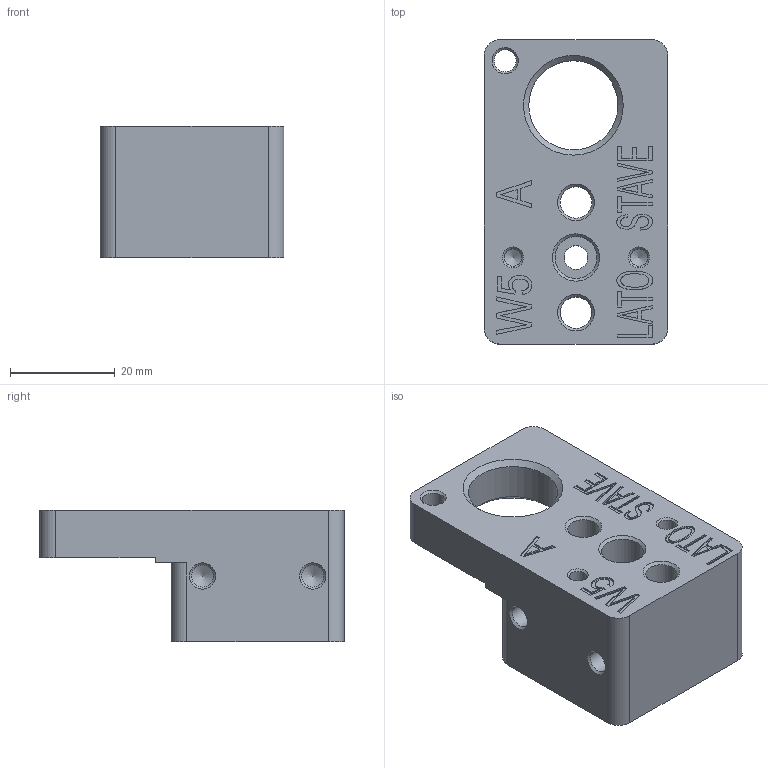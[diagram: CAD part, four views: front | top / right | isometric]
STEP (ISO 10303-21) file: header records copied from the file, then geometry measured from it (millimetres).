
FILE_DESCRIPTION(/* description */ (''),/* implementation_level */ '2;1');
FILE_NAME(/* name */ 'WHEELS-INSERT.10.stp',/* time_stamp */ '2018-10-12T17:07:46+02:00',/* author */ (''),/* organization */ (''),/* preprocessor_version */ 'ST-DEVELOPER v16.7',/* originating_system */ 'SIEMENS PLM Software NX 12.0',/* authorisation */ '');
FILE_SCHEMA (('AP203_CONFIGURATION_CONTROLLED_3D_DESIGN_OF_MECHANICAL_PARTS_AND_ASSEMBLIES_MIM_LF { 1 0 10303 403 2 1 2}'));
Length unit declared in the file: millimetre
Products named in the file (1): turc1934B35Eh6a3
Bounding box: 35 x 58 x 25 mm (x, y, z)
Volume: 31740.2 mm3; surface area: 9766.6 mm2
Topology: 1 solids, 1 shells, 167 faces, 445 edges, 296 vertices
Faces by surface type: plane 109, extrusion 24, cone 18, cylinder 16
Full cylindrical faces by diameter (mm): 3.3 x2, 4.2 x3, 4.5 x1, 6 x2, 8 x1, 17 x1
Entity records: 5739 total; most frequent: CARTESIAN_POINT 1991, ORIENTED_EDGE 790, DIRECTION 561, EDGE_CURVE 395, VERTEX_POINT 278, B_SPLINE_CURVE_WITH_KNOTS 236, EDGE_LOOP 221, AXIS2_PLACEMENT_3D 200
